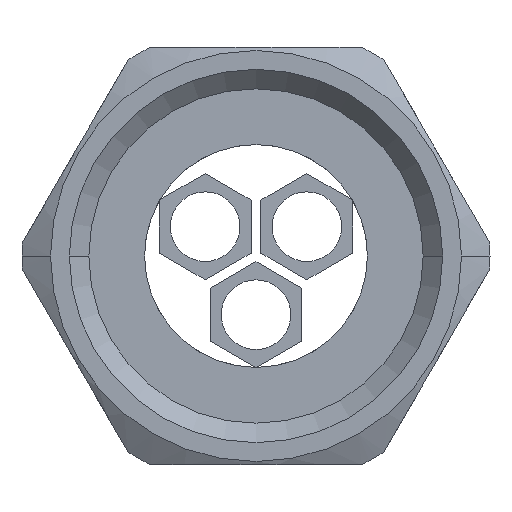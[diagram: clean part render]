
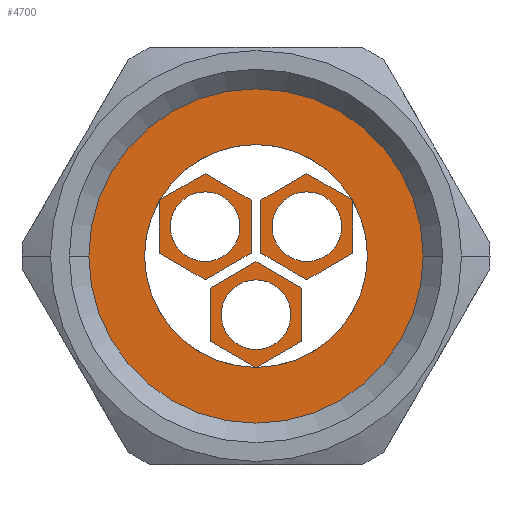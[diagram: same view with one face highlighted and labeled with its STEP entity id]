
A CAD part, front view. The second image highlights one B-rep face of the part: STEP entity #4700.
In plain terms, the highlighted planar face has unit normal (0, -1, 0).
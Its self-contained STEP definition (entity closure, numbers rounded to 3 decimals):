
#1480=CARTESIAN_POINT('',(269.686,49.136,
0.));
#1490=VERTEX_POINT('',#1480);
#1570=CARTESIAN_POINT('',(296.586,49.136,0.));
#1580=VERTEX_POINT('',#1570);
#1610=CARTESIAN_POINT('',(283.136,49.136,0.));
#1620=DIRECTION('',(0.,1.,0.));
#1630=DIRECTION('',(1.,0.,0.));
#1640=AXIS2_PLACEMENT_3D('',#1610,#1620,#1630);
#1650=CIRCLE('',#1640,13.45);
#1660=EDGE_CURVE('',#1490,#1580,#1650,.T.);
#1800=CARTESIAN_POINT('',(286.436,49.136,
-2.309));
#1810=VERTEX_POINT('',#1800);
#1860=CARTESIAN_POINT('',(486.112,49.136,
-117.593));
#1870=DIRECTION('',(0.866,0.,-0.5));
#1880=VECTOR('',#1870,1.);
#1890=LINE('',#1860,#1880);
#1900=CARTESIAN_POINT('',(283.136,49.136,
-0.404));
#1910=VERTEX_POINT('',#1900);
#1920=EDGE_CURVE('',#1910,#1810,#1890,.T.);
#2530=CARTESIAN_POINT('',(294.111,49.136,0.));
#2540=DIRECTION('',(-0.,1.,0.));
#2550=DIRECTION('',(1.,0.,0.));
#2560=AXIS2_PLACEMENT_3D('',#2530,#2540,#2550);
#2570=PLANE('',#2560);
#2580=EDGE_CURVE('',#1580,#1490,#1650,.T.);
#2590=ORIENTED_EDGE('',*,*,#2580,.F.);
#2600=ORIENTED_EDGE('',*,*,#1660,.F.);
#2610=EDGE_LOOP('',(#2600,#2590));
#2620=FACE_OUTER_BOUND('',#2610,.T.);
#2630=CARTESIAN_POINT('',(286.786,49.136,
2.107));
#2640=DIRECTION('',(0.,1.,0.));
#2650=DIRECTION('',(-1.,0.,0.));
#2660=AXIS2_PLACEMENT_3D('',#2630,#2640,#2650);
#2670=CIRCLE('',#2660,2.5);
#2680=CARTESIAN_POINT('',(284.286,49.136,
2.107));
#2690=VERTEX_POINT('',#2680);
#2700=CARTESIAN_POINT('',(289.286,49.136,
2.107));
#2710=VERTEX_POINT('',#2700);
#2720=EDGE_CURVE('',#2690,#2710,#2670,.T.);
#2730=ORIENTED_EDGE('',*,*,#2720,.T.);
#2740=EDGE_CURVE('',#2710,#2690,#2670,.T.);
#2750=ORIENTED_EDGE('',*,*,#2740,.T.);
#2760=EDGE_LOOP('',(#2750,#2730));
#2770=FACE_BOUND('',#2760,.T.);
#2780=CARTESIAN_POINT('',(283.136,49.136,
-4.215));
#2790=DIRECTION('',(0.,1.,0.));
#2800=DIRECTION('',(0.5,0.,0.866));
#2810=AXIS2_PLACEMENT_3D('',#2780,#2790,#2800);
#2820=CIRCLE('',#2810,2.5);
#2830=CARTESIAN_POINT('',(284.386,49.136,
-2.05));
#2840=VERTEX_POINT('',#2830);
#2850=CARTESIAN_POINT('',(281.886,49.136,
-6.38));
#2860=VERTEX_POINT('',#2850);
#2870=EDGE_CURVE('',#2840,#2860,#2820,.T.);
#2880=ORIENTED_EDGE('',*,*,#2870,.T.);
#2890=EDGE_CURVE('',#2860,#2840,#2820,.T.);
#2900=ORIENTED_EDGE('',*,*,#2890,.T.);
#2910=EDGE_LOOP('',(#2900,#2880));
#2920=FACE_BOUND('',#2910,.T.);
#2930=CARTESIAN_POINT('',(283.136,49.136,0.));
#2940=DIRECTION('',(0.,1.,0.));
#2950=DIRECTION('',(1.,0.,0.));
#2960=AXIS2_PLACEMENT_3D('',#2930,#2940,#2950);
#2970=CIRCLE('',#2960,8.);
#2980=CARTESIAN_POINT('',(275.136,49.136,
0.));
#2990=VERTEX_POINT('',#2980);
#3000=CARTESIAN_POINT('',(276.186,49.136,
3.962));
#3010=VERTEX_POINT('',#3000);
#3020=EDGE_CURVE('',#2990,#3010,#2970,.T.);
#3030=ORIENTED_EDGE('',*,*,#3020,.T.);
#3040=CARTESIAN_POINT('',(283.092,49.136,
-8.));
#3050=VERTEX_POINT('',#3040);
#3060=EDGE_CURVE('',#3050,#2990,#2970,.T.);
#3070=ORIENTED_EDGE('',*,*,#3060,.T.);
#3080=CARTESIAN_POINT('',(486.112,49.136,
-125.214));
#3090=DIRECTION('',(-0.866,0.,0.5));
#3100=VECTOR('',#3090,1.);
#3110=LINE('',#3080,#3100);
#3120=CARTESIAN_POINT('',(279.836,49.136,
-6.12));
#3130=VERTEX_POINT('',#3120);
#3140=EDGE_CURVE('',#3050,#3130,#3110,.T.);
#3150=ORIENTED_EDGE('',*,*,#3140,.F.);
#3160=CARTESIAN_POINT('',(279.836,49.136,0.));
#3170=DIRECTION('',(0.,0.,1.));
#3180=VECTOR('',#3170,1.);
#3190=LINE('',#3160,#3180);
#3200=CARTESIAN_POINT('',(279.836,49.136,
-2.309));
#3210=VERTEX_POINT('',#3200);
#3220=EDGE_CURVE('',#3130,#3210,#3190,.T.);
#3230=ORIENTED_EDGE('',*,*,#3220,.F.);
#3240=CARTESIAN_POINT('',(486.112,49.136,
116.784));
#3250=DIRECTION('',(0.866,0.,0.5));
#3260=VECTOR('',#3250,1.);
#3270=LINE('',#3240,#3260);
#3280=EDGE_CURVE('',#3210,#1910,#3270,.T.);
#3290=ORIENTED_EDGE('',*,*,#3280,.F.);
#3300=ORIENTED_EDGE('',*,*,#1920,.F.);
#3310=CARTESIAN_POINT('',(286.436,49.136,0.));
#3320=DIRECTION('',(0.,0.,-1.));
#3330=VECTOR('',#3320,1.);
#3340=LINE('',#3310,#3330);
#3350=CARTESIAN_POINT('',(286.436,49.136,
-6.12));
#3360=VERTEX_POINT('',#3350);
#3370=EDGE_CURVE('',#1810,#3360,#3340,.T.);
#3380=ORIENTED_EDGE('',*,*,#3370,.F.);
#3390=CARTESIAN_POINT('',(486.112,49.136,
109.163));
#3400=DIRECTION('',(-0.866,0.,-0.5));
#3410=VECTOR('',#3400,1.);
#3420=LINE('',#3390,#3410);
#3430=CARTESIAN_POINT('',(283.18,49.136,
-8.));
#3440=VERTEX_POINT('',#3430);
#3450=EDGE_CURVE('',#3360,#3440,#3420,.T.);
#3460=ORIENTED_EDGE('',*,*,#3450,.F.);
#3470=CARTESIAN_POINT('',(291.136,49.136,0.));
#3480=VERTEX_POINT('',#3470);
#3490=EDGE_CURVE('',#3480,#3440,#2970,.T.);
#3500=ORIENTED_EDGE('',*,*,#3490,.T.);
#3510=CARTESIAN_POINT('',(290.086,49.136,
3.962));
#3520=VERTEX_POINT('',#3510);
#3530=EDGE_CURVE('',#3520,#3480,#2970,.T.);
#3540=ORIENTED_EDGE('',*,*,#3530,.T.);
#3550=CARTESIAN_POINT('',(290.086,49.136,0.));
#3560=DIRECTION('',(0.,0.,-1.));
#3570=VECTOR('',#3560,1.);
#3580=LINE('',#3550,#3570);
#3590=CARTESIAN_POINT('',(290.086,49.136,
0.202));
#3600=VERTEX_POINT('',#3590);
#3610=EDGE_CURVE('',#3520,#3600,#3580,.T.);
#3620=ORIENTED_EDGE('',*,*,#3610,.F.);
#3630=CARTESIAN_POINT('',(486.112,49.136,
113.378));
#3640=DIRECTION('',(-0.866,0.,-0.5));
#3650=VECTOR('',#3640,1.);
#3660=LINE('',#3630,#3650);
#3670=CARTESIAN_POINT('',(286.786,49.136,
-1.703));
#3680=VERTEX_POINT('',#3670);
#3690=EDGE_CURVE('',#3600,#3680,#3660,.T.);
#3700=ORIENTED_EDGE('',*,*,#3690,.F.);
#3710=CARTESIAN_POINT('',(486.112,49.136,
-116.784));
#3720=DIRECTION('',(-0.866,0.,0.5));
#3730=VECTOR('',#3720,1.);
#3740=LINE('',#3710,#3730);
#3750=CARTESIAN_POINT('',(283.486,49.136,
0.202));
#3760=VERTEX_POINT('',#3750);
#3770=EDGE_CURVE('',#3680,#3760,#3740,.T.);
#3780=ORIENTED_EDGE('',*,*,#3770,.F.);
#3790=CARTESIAN_POINT('',(283.486,49.136,0.));
#3800=DIRECTION('',(0.,0.,1.));
#3810=VECTOR('',#3800,1.);
#3820=LINE('',#3790,#3810);
#3830=CARTESIAN_POINT('',(283.486,49.136,
4.013));
#3840=VERTEX_POINT('',#3830);
#3850=EDGE_CURVE('',#3760,#3840,#3820,.T.);
#3860=ORIENTED_EDGE('',*,*,#3850,.F.);
#3870=CARTESIAN_POINT('',(486.112,49.136,
120.999));
#3880=DIRECTION('',(0.866,0.,0.5));
#3890=VECTOR('',#3880,1.);
#3900=LINE('',#3870,#3890);
#3910=CARTESIAN_POINT('',(286.786,49.136,
5.918));
#3920=VERTEX_POINT('',#3910);
#3930=EDGE_CURVE('',#3840,#3920,#3900,.T.);
#3940=ORIENTED_EDGE('',*,*,#3930,.F.);
#3950=CARTESIAN_POINT('',(486.112,49.136,
-109.163));
#3960=DIRECTION('',(0.866,0.,-0.5));
#3970=VECTOR('',#3960,1.);
#3980=LINE('',#3950,#3970);
#3990=CARTESIAN_POINT('',(290.042,49.136,
4.038));
#4000=VERTEX_POINT('',#3990);
#4010=EDGE_CURVE('',#3920,#4000,#3980,.T.);
#4020=ORIENTED_EDGE('',*,*,#4010,.F.);
#4030=CARTESIAN_POINT('',(276.23,49.136,
4.038));
#4040=VERTEX_POINT('',#4030);
#4050=EDGE_CURVE('',#4040,#4000,#2970,.T.);
#4060=ORIENTED_EDGE('',*,*,#4050,.T.);
#4070=CARTESIAN_POINT('',(486.112,49.136,
125.214));
#4080=DIRECTION('',(0.866,0.,0.5));
#4090=VECTOR('',#4080,1.);
#4100=LINE('',#4070,#4090);
#4110=CARTESIAN_POINT('',(279.486,49.136,
5.918));
#4120=VERTEX_POINT('',#4110);
#4130=EDGE_CURVE('',#4040,#4120,#4100,.T.);
#4140=ORIENTED_EDGE('',*,*,#4130,.F.);
#4150=CARTESIAN_POINT('',(486.112,49.136,
-113.378));
#4160=DIRECTION('',(0.866,0.,-0.5));
#4170=VECTOR('',#4160,1.);
#4180=LINE('',#4150,#4170);
#4190=CARTESIAN_POINT('',(282.786,49.136,
4.013));
#4200=VERTEX_POINT('',#4190);
#4210=EDGE_CURVE('',#4120,#4200,#4180,.T.);
#4220=ORIENTED_EDGE('',*,*,#4210,.F.);
#4230=CARTESIAN_POINT('',(282.786,49.136,0.));
#4240=DIRECTION('',(0.,0.,-1.));
#4250=VECTOR('',#4240,1.);
#4260=LINE('',#4230,#4250);
#4270=CARTESIAN_POINT('',(282.786,49.136,
0.202));
#4280=VERTEX_POINT('',#4270);
#4290=EDGE_CURVE('',#4200,#4280,#4260,.T.);
#4300=ORIENTED_EDGE('',*,*,#4290,.F.);
#4310=CARTESIAN_POINT('',(486.112,49.136,
117.593));
#4320=DIRECTION('',(-0.866,0.,-0.5));
#4330=VECTOR('',#4320,1.);
#4340=LINE('',#4310,#4330);
#4350=CARTESIAN_POINT('',(279.486,49.136,
-1.703));
#4360=VERTEX_POINT('',#4350);
#4370=EDGE_CURVE('',#4280,#4360,#4340,.T.);
#4380=ORIENTED_EDGE('',*,*,#4370,.F.);
#4390=CARTESIAN_POINT('',(486.112,49.136,
-120.999));
#4400=DIRECTION('',(-0.866,0.,0.5));
#4410=VECTOR('',#4400,1.);
#4420=LINE('',#4390,#4410);
#4430=CARTESIAN_POINT('',(276.186,49.136,
0.202));
#4440=VERTEX_POINT('',#4430);
#4450=EDGE_CURVE('',#4360,#4440,#4420,.T.);
#4460=ORIENTED_EDGE('',*,*,#4450,.F.);
#4470=CARTESIAN_POINT('',(276.186,49.136,0.));
#4480=DIRECTION('',(0.,0.,1.));
#4490=VECTOR('',#4480,1.);
#4500=LINE('',#4470,#4490);
#4510=EDGE_CURVE('',#4440,#3010,#4500,.T.);
#4520=ORIENTED_EDGE('',*,*,#4510,.F.);
#4530=EDGE_LOOP('',(#4520,#4460,#4380,#4300,#4220,#4140,#4060,#4020,
#3940,#3860,#3780,#3700,#3620,#3540,#3500,#3460,#3380,#3300,#3290,#3230,
#3150,#3070,#3030));
#4540=FACE_BOUND('',#4530,.T.);
#4550=CARTESIAN_POINT('',(279.486,49.136,
2.107));
#4560=DIRECTION('',(0.,1.,0.));
#4570=DIRECTION('',(0.5,0.,-0.866));
#4580=AXIS2_PLACEMENT_3D('',#4550,#4560,#4570);
#4590=CIRCLE('',#4580,2.5);
#4600=CARTESIAN_POINT('',(280.736,49.136,
-0.058));
#4610=VERTEX_POINT('',#4600);
#4620=CARTESIAN_POINT('',(278.236,49.136,
4.272));
#4630=VERTEX_POINT('',#4620);
#4640=EDGE_CURVE('',#4610,#4630,#4590,.T.);
#4650=ORIENTED_EDGE('',*,*,#4640,.T.);
#4660=EDGE_CURVE('',#4630,#4610,#4590,.T.);
#4670=ORIENTED_EDGE('',*,*,#4660,.T.);
#4680=EDGE_LOOP('',(#4670,#4650));
#4690=FACE_BOUND('',#4680,.T.);
#4700=ADVANCED_FACE('',(#2620,#2770,#2920,#4540,#4690),#2570,.F.);
